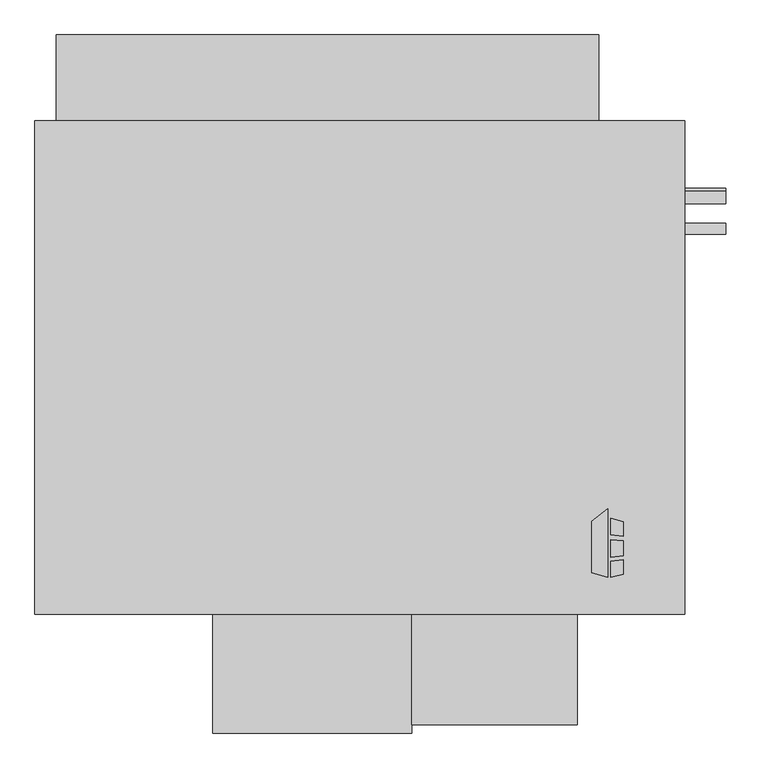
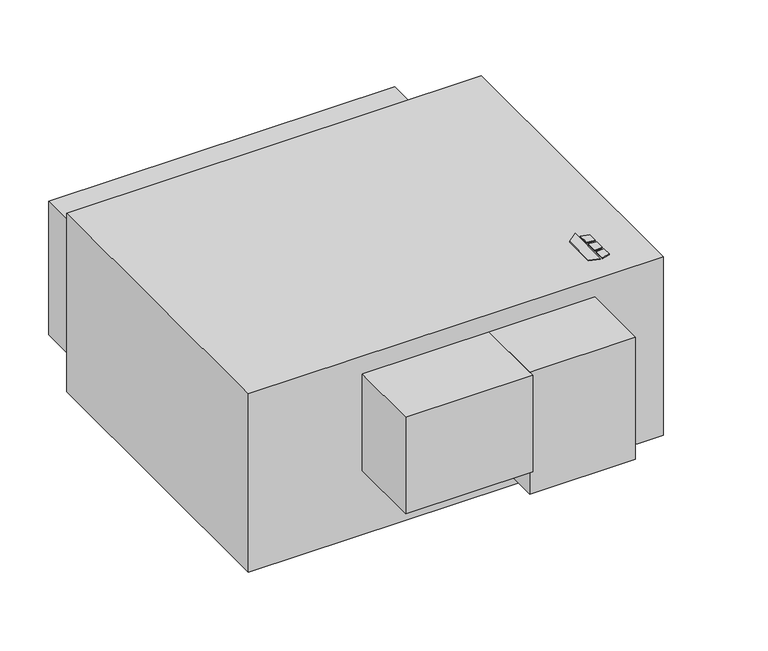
"""IFC4 building model written with IfcOpenShell, lengths in millimetres: proxy geometry, Horizontal_Direct_Drive_Blower_Coil_Unit_-_HDY_-_IEC_-_2-Pipe_Cool-EHeat_RH_2022 : Size 20 - 460v/60Hz/3Ph - 8 Row 19.9kW."""

from ifc_helpers import new_model, si_unit, point, frame, frame_2d, origin, origin_with_axes, place, context, project, spatial, polyline, circle_curve, trimmed, segment, composite_curve, outline, extrude, source, transform, mapped, element, save


def mechanical_equipment_7bdb9abd(model_context):
    return source(origin(), model_context, "Body", "SweptSolid", [
        extrude(outline(polyline([(87.0019761, -337.5078476), (119.5602728, -312.0705184), (119.5602728, -454.025), (87.0019761, -443.8054201), (87.0019761, -337.5078476)])), origin_with_axes(), (0.0, 0.0, 1.0), 3.175),
        extrude(outline(polyline([(126.3186058, -365.379852), (126.3186058, -330.8999379), (152.4, -339.0865115), (152.4, -368.5822446), (126.3186058, -365.379852)])), origin_with_axes(), (0.0, 0.0, 1.0), 3.175),
        extrude(outline(polyline([(152.4, -447.0365115), (126.3186058, -454.025), (126.3186058, -420.8036996), (152.4, -417.2618564), (152.4, -447.0365115)])), origin_with_axes(), (0.0, 0.0, 1.0), 3.175),
        extrude(outline(polyline([(152.4, -377.6638277), (152.4, -408.913983), (126.3186058, -411.655248), (126.3186058, -375.7975378), (152.4, -377.6638277)])), origin_with_axes(), (0.0, 0.0, 1.0), 3.175),
        extrude(outline(polyline([(279.4, 492.125), (279.4, -530.225), (-1066.8, -530.225), (-1066.8, 492.125), (279.4, 492.125)])), frame((0.0, 0.0, -612.7558174), z_axis=(0.0, 0.0, 1.0), x_axis=(1.0, 0.0, 0.0)), (0.0, 0.0, 1.0), 612.7558174),
        extrude(outline(polyline([(57.15, -758.825), (-285.75, -758.825), (-285.75, -530.225), (57.15, -530.225), (57.15, -758.825)])), frame((0.0, 0.0, -479.4058174), z_axis=(0.0, 0.0, 1.0), x_axis=(1.0, 0.0, 0.0)), (0.0, 0.0, 1.0), 419.1),
        extrude(outline(composite_curve([segment(trimmed(circle_curve(frame_2d((333.375, -177.8)), 12.7), [point((346.075, -177.8))], [point((320.675, -177.8))], False, "CARTESIAN"), True, "CONTINUOUS"), segment(trimmed(circle_curve(frame_2d((333.375, -177.8)), 12.7), [point((320.675, -177.8))], [point((346.075, -177.8))], False, "CARTESIAN"), True, "CONTINUOUS")], self_intersect=False)), frame((279.4, 0.0, 0.0), z_axis=(1.0, 0.0, 0.0), x_axis=(0.0, 1.0, 0.0)), (0.0, 0.0, 1.0), 85.2932),
        extrude(outline(composite_curve([segment(trimmed(circle_curve(frame_2d((340.130856, -485.7558174)), 12.7), [point((352.830856, -485.7558174))], [point((327.430856, -485.7558174))], False, "CARTESIAN"), True, "CONTINUOUS"), segment(trimmed(circle_curve(frame_2d((340.130856, -485.7558174)), 12.7), [point((327.430856, -485.7558174))], [point((352.830856, -485.7558174))], False, "CARTESIAN"), True, "CONTINUOUS")], self_intersect=False)), frame((279.4, 0.0, 0.0), z_axis=(1.0, 0.0, 0.0), x_axis=(0.0, 1.0, 0.0)), (0.0, 0.0, 1.0), 85.2932),
        extrude(outline(composite_curve([segment(trimmed(circle_curve(frame_2d((268.4630494, -568.3058174)), 11.1125), [point((279.5755494, -568.3058174))], [point((257.3505494, -568.3058174))], False, "CARTESIAN"), True, "CONTINUOUS"), segment(trimmed(circle_curve(frame_2d((268.4630494, -568.3058174)), 11.1125), [point((257.3505494, -568.3058174))], [point((279.5755494, -568.3058174))], False, "CARTESIAN"), True, "CONTINUOUS")], self_intersect=False)), frame((279.4, 0.0, 0.0), z_axis=(1.0, 0.0, 0.0), x_axis=(0.0, 1.0, 0.0)), (0.0, 0.0, 1.0), 85.2932),
        extrude(outline(polyline([(-1022.35, 669.925), (101.6, 669.925), (101.6, 492.125), (-1022.35, 492.125), (-1022.35, 669.925)])), frame((0.0, 0.0, -539.7308174), z_axis=(0.0, 0.0, 1.0), x_axis=(1.0, 0.0, 0.0)), (0.0, 0.0, 1.0), 457.2),
        extrude(outline(polyline([(-285.75, -776.2875), (-698.5, -776.2875), (-698.5, -530.225), (-285.75, -530.225), (-285.75, -776.2875)])), frame((0.0, 0.0, -390.5058174), z_axis=(0.0, 0.0, 1.0), x_axis=(1.0, 0.0, 0.0)), (0.0, 0.0, 1.0), 330.2),
    ])


if __name__ == "__main__":
    model = new_model("IFC4")
    model_context = context("Model", 3, world=origin())
    ifc_project = project(units=[si_unit("LENGTHUNIT", "METRE", prefix="MILLI")], contexts=[model_context])
    site = spatial("IfcSite", under=ifc_project)
    building = spatial("IfcBuilding", under=site)
    placement = place(None, origin())
    mechanical_equipment_shape = mechanical_equipment_7bdb9abd(model_context)
    element("IfcBuildingElementProxy", 1, Name="Horizontal_Direct_Drive_Blower_Coil_Unit_-_HDY_-_IEC_-_2-Pipe_Cool-EHeat_RH_2022 : Size 20 - 460v/60Hz/3Ph - 8 Row 19.9kW", ObjectType="Horizontal_Direct_Drive_Blower_Coil_Unit_-_HDY_-_IEC_-_2-Pipe_Cool-EHeat_RH_2022 : Size 20 - 460v/60Hz/3Ph - 8 Row 19.9kW", at=placement, inside=building, context=model_context, shape_type="MappedRepresentation", body=[
        mapped(mechanical_equipment_shape, transform((0.0, 0.0, 0.0), x_axis=(1.0, 0.0, 0.0), y_axis=(0.0, 1.0, 0.0), z_axis=(0.0, 0.0, 1.0))),
    ])
    save(model, "model.ifc")
